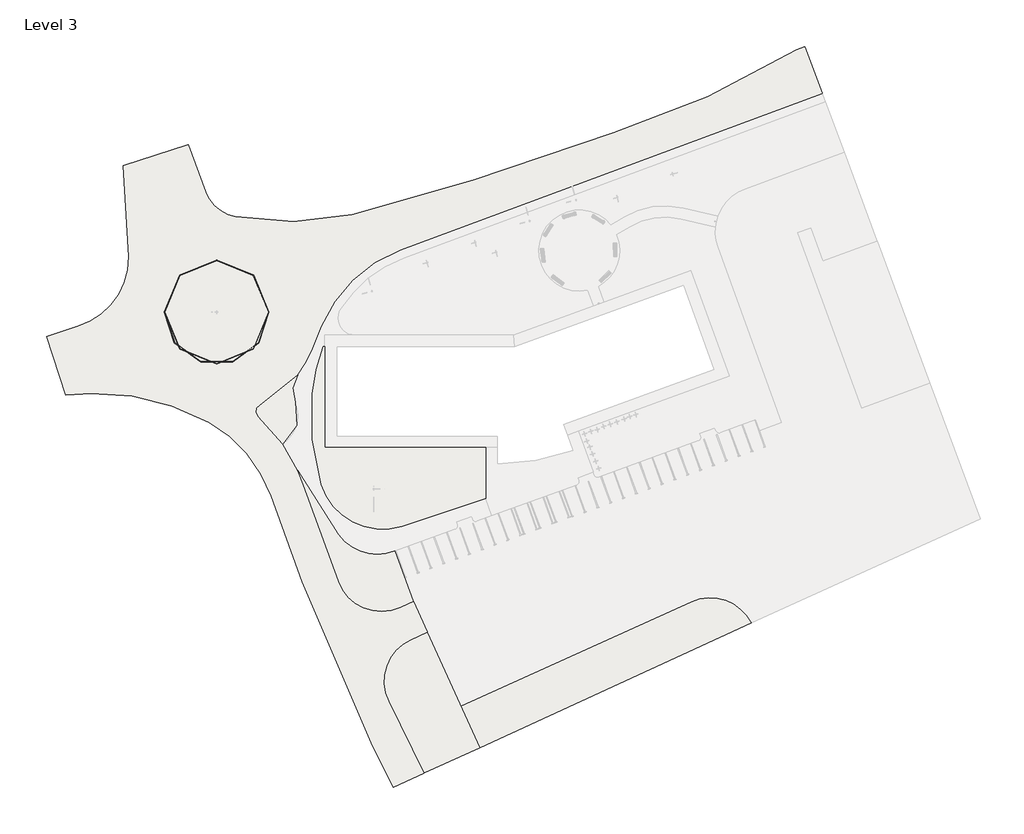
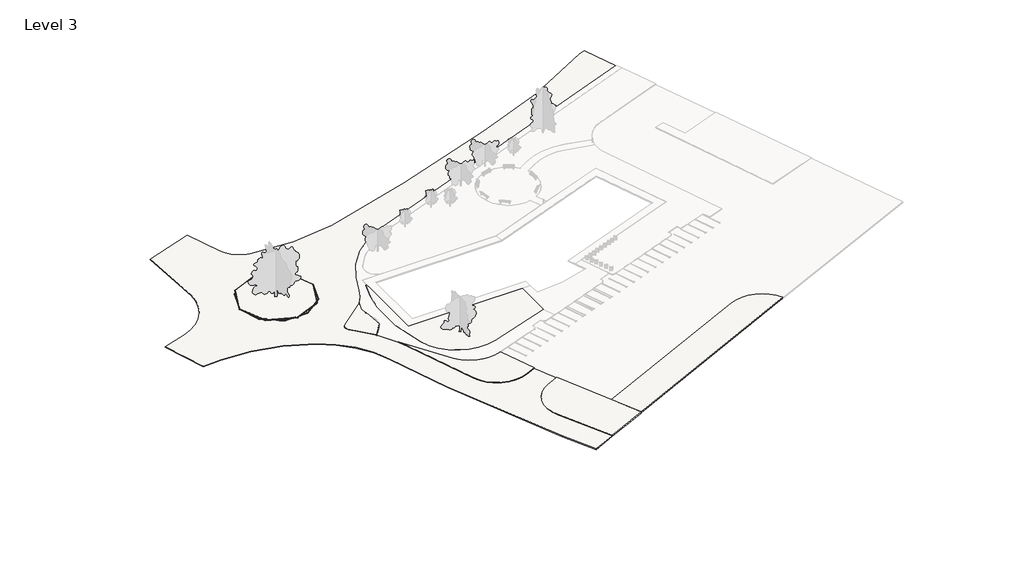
# One storey, part 1 of 3: 6 slabs, 1 proxy.
"""IFC4 building model written with IfcOpenShell, lengths in millimetres."""

from ifc_helpers import new_model, si_unit, point, frame, frame_2d, origin, place, context, project, spatial, polyline, circle_curve, ellipse_curve, trimmed, segment, composite_curve, outline, extrude, element, save
from ifc_brep_helpers import plane_surface, cylinder_surface, revolved_surface, advanced_brep

model = new_model("IFC4")

# Units and contexts
model_context = context("Model", 3, world=origin())
ifc_project = project(units=[si_unit("LENGTHUNIT", "METRE", prefix="MILLI")], contexts=[model_context])

# Site, building, storey
site = spatial("IfcSite", under=ifc_project)
building = spatial("IfcBuilding", under=site)
storey = spatial("IfcBuildingStorey", under=building, Name="Level 3", Elevation=-150.0)

# Proxy
placement = place(None, origin())
element("IfcBuildingElementProxy", 1, Name="Kerb-45deg-Splay", ObjectType="Kerb-45deg-Splay", at=placement, inside=storey, context=model_context, shape_type="AdvancedBrep", body=[
    advanced_brep(
    [(-30189.953306, 21747.745805, -225.0), (-30189.953306, 21747.745805, -375.0), (-11829.379772, 21747.745805, -375.0), (-11829.379772, 21747.745805, -225.0), (-30185.2670145, 21747.745805, -212.5052912), (-11834.0660635, 21747.745805, -212.5052912), (-30127.4480148, 21747.745805, -154.6862915), (-11891.8850632, 21747.745805, -154.6862915), (-30114.953306, 21747.745805, -150.0), (-11904.379772, 21747.745805, -150.0), (-30064.953306, 21747.745805, -150.0), (-11954.379772, 21747.745805, -150.0), (-30064.953306, 21747.745805, -375.0), (-11954.379772, 21747.745805, -375.0)],
    [
        (0, 1),
        (1, 2, circle_curve(frame((-21009.666539, 21747.745805, -375.0), z_axis=(0.0, 0.0, 1.0), x_axis=(-1.0, 0.0, 0.0)), 9180.286767)),
        (2, 3),
        (3, 0, circle_curve(frame((-21009.666539, 21747.745805, -225.0), z_axis=(0.0, 0.0, -1.0), x_axis=(-1.0, 0.0, 0.0)), 9180.286767)),
        (4, 0, circle_curve(frame((-30170.953306, 21747.745805, -225.0), z_axis=(0.0, -1.0, 0.0), x_axis=(-1.0, 0.0, 0.0)), 19.0)),
        (3, 5, circle_curve(frame((-11848.379772, 21747.745805, -225.0), z_axis=(0.0, -1.0, 0.0), x_axis=(1.0, 0.0, 0.0)), 19.0)),
        (5, 4, circle_curve(frame((-21009.666539, 21747.745805, -212.5052912), z_axis=(0.0, 0.0, -1.0), x_axis=(-1.0, 0.0, 0.0)), 9175.6004755)),
        (6, 4),
        (5, 7),
        (7, 6, circle_curve(frame((-21009.666539, 21747.745805, -154.6862915), z_axis=(0.0, 0.0, -1.0), x_axis=(-1.0, 0.0, 0.0)), 9117.7814758)),
        (8, 6, circle_curve(frame((-30114.953306, 21747.745805, -169.0), z_axis=(0.0, -1.0, 0.0), x_axis=(-1.0, 0.0, 0.0)), 19.0)),
        (7, 9, circle_curve(frame((-11904.379772, 21747.745805, -169.0), z_axis=(0.0, -1.0, 0.0), x_axis=(1.0, 0.0, 0.0)), 19.0)),
        (9, 8, circle_curve(frame((-21009.666539, 21747.745805, -150.0), z_axis=(0.0, 0.0, -1.0), x_axis=(-1.0, 0.0, 0.0)), 9105.286767)),
        (10, 8),
        (9, 11),
        (11, 10, circle_curve(frame((-21009.666539, 21747.745805, -150.0), z_axis=(0.0, 0.0, -1.0), x_axis=(-1.0, 0.0, 0.0)), 9055.286767)),
        (12, 10),
        (11, 13),
        (13, 12, circle_curve(frame((-21009.666539, 21747.745805, -375.0), z_axis=(0.0, 0.0, -1.0), x_axis=(-1.0, 0.0, 0.0)), 9055.286767)),
        (1, 12),
        (13, 2),
        (0, 3, circle_curve(frame((-21009.666539, 21747.745805, -225.0), z_axis=(0.0, 0.0, -1.0), x_axis=(1.0, 0.0, 0.0)), 9180.286767)),
        (2, 1, circle_curve(frame((-21009.666539, 21747.745805, -375.0), z_axis=(0.0, 0.0, 1.0), x_axis=(1.0, 0.0, 0.0)), 9180.286767)),
        (4, 5, circle_curve(frame((-21009.666539, 21747.745805, -212.5052912), z_axis=(0.0, 0.0, -1.0), x_axis=(1.0, 0.0, 0.0)), 9175.6004755)),
        (6, 7, circle_curve(frame((-21009.666539, 21747.745805, -154.6862915), z_axis=(0.0, 0.0, -1.0), x_axis=(1.0, 0.0, 0.0)), 9117.7814758)),
        (8, 9, circle_curve(frame((-21009.666539, 21747.745805, -150.0), z_axis=(0.0, 0.0, -1.0), x_axis=(1.0, 0.0, 0.0)), 9105.286767)),
        (10, 11, circle_curve(frame((-21009.666539, 21747.745805, -150.0), z_axis=(0.0, 0.0, -1.0), x_axis=(1.0, 0.0, 0.0)), 9055.286767)),
        (12, 13, circle_curve(frame((-21009.666539, 21747.745805, -375.0), z_axis=(0.0, 0.0, -1.0), x_axis=(1.0, 0.0, 0.0)), 9055.286767)),
    ],
    [
        cylinder_surface(frame((-21009.666539, 21747.745805, -150.0), z_axis=(0.0, 0.0, 1.0), x_axis=(-1.0, 0.0, 0.0)), 9180.286767),
        revolved_surface(trimmed(ellipse_curve(frame((-30170.953306, 21747.745805, -225.0), z_axis=(0.0, 1.0, 0.0), x_axis=(-1.0, 0.0, 0.0)), 19.0, 19.0), [point((-30189.953306, 21747.745805, -225.0))], [point((-30185.2670145, 21747.745805, -212.5052912))], True, "CARTESIAN"), (-21009.666539, 21747.745805, -150.0), (0.0, 0.0, 1.0)),
        revolved_surface(polyline([(-30185.2670145, 21747.745805, -212.5052912), (-30127.4480148, 21747.745805, -154.6862915)]), (-21009.666539, 21747.745805, -150.0), (0.0, 0.0, 1.0)),
        revolved_surface(trimmed(ellipse_curve(frame((-30114.953306, 21747.745805, -169.0), z_axis=(0.0, 1.0, 0.0), x_axis=(-1.0, 0.0, 0.0)), 19.0, 19.0), [point((-30127.4480148, 21747.745805, -154.6862915))], [point((-30114.953306, 21747.745805, -150.0))], True, "CARTESIAN"), (-21009.666539, 21747.745805, -150.0), (0.0, 0.0, 1.0)),
        plane_surface(frame((-21009.666539, 21747.745805, -150.0), z_axis=(0.0, 0.0, 1.0), x_axis=(-1.0, 0.0, 0.0))),
        revolved_surface(polyline([(-30064.953306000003, 21747.745805, -150.0), (-30064.953306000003, 21747.745805, -375.0)]), (-21009.666539, 21747.745805, -150.0), (0.0, 0.0, 1.0)),
        plane_surface(frame((-21009.666539, 21747.745805, -375.0), z_axis=(0.0, 0.0, -1.0), x_axis=(-1.0, 0.0, 0.0))),
        cylinder_surface(frame((-21009.666539, 21747.745805, -150.0), z_axis=(0.0, 0.0, 1.0), x_axis=(1.0, 0.0, 0.0)), 9180.286767),
        revolved_surface(trimmed(ellipse_curve(frame((-11848.379772, 21747.745805, -225.0), z_axis=(0.0, -1.0, 0.0), x_axis=(1.0, 0.0, 0.0)), 19.0, 19.0), [point((-11829.379772, 21747.745805, -225.0))], [point((-11834.0660635, 21747.745805, -212.5052912))], True, "CARTESIAN"), (-21009.666539, 21747.745805, -150.0), (0.0, 0.0, 1.0)),
        revolved_surface(polyline([(-11834.0660635, 21747.745805, -212.5052912), (-11891.8850632, 21747.745805, -154.6862915)]), (-21009.666539, 21747.745805, -150.0), (0.0, 0.0, 1.0)),
        revolved_surface(trimmed(ellipse_curve(frame((-11904.379772, 21747.745805, -169.0), z_axis=(0.0, -1.0, 0.0), x_axis=(1.0, 0.0, 0.0)), 19.0, 19.0), [point((-11891.8850632, 21747.745805, -154.6862915))], [point((-11904.379772, 21747.745805, -150.0))], True, "CARTESIAN"), (-21009.666539, 21747.745805, -150.0), (0.0, 0.0, 1.0)),
        plane_surface(frame((-21009.666539, 21747.745805, -150.0), z_axis=(0.0, 0.0, 1.0), x_axis=(1.0, 0.0, 0.0))),
        revolved_surface(polyline([(-11954.379772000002, 21747.745805, -150.0), (-11954.379772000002, 21747.745805, -375.0)]), (-21009.666539, 21747.745805, -150.0), (0.0, 0.0, 1.0)),
        plane_surface(frame((-21009.666539, 21747.745805, -375.0), z_axis=(0.0, 0.0, -1.0), x_axis=(1.0, 0.0, 0.0))),
    ],
    [
        (0, [[1, 2, 3, 4]]),
        (1, [[5, -4, 6, 7]]),
        (2, [[8, -7, 9, 10]]),
        (3, [[11, -10, 12, 13]]),
        (4, [[14, -13, 15, 16]]),
        (5, [[17, -16, 18, 19]]),
        (6, [[20, -19, 21, -2]]),
        (7, [[-1, 22, -3, 23]]),
        (8, [[-5, 24, -6, -22]]),
        (9, [[-8, 25, -9, -24]]),
        (10, [[-11, 26, -12, -25]]),
        (11, [[-14, 27, -15, -26]]),
        (12, [[-17, 28, -18, -27]]),
        (13, [[-20, -23, -21, -28]]),
    ],
),
])

# Slabs
element("IfcSlab", 2, ObjectType="HW - Tarmac", at=placement, inside=storey, context=model_context, shape_type="AdvancedBrep", body=[
    advanced_brep(
    [(11319.0750339, 32678.6820825, -450.0), (-2533.7024757, 19294.6457134, -450.0), (-4338.020815, 14901.1084697, -450.0), (-6782.3087816, 10684.1792377, -450.0), (-13370.6260261, 5423.9817174, -450.0), (-13677.6033933, 3456.8833973, -450.0), (-9435.7614518, -1426.1466285, -450.0), (-6798.1354124, -6055.3212881, -450.0), (-5799.3897827, -8524.9988525, -450.0), (396.8756219, -25549.0981323, -450.0), (11218.1465084, -30098.9076557, -450.0), (13513.7889112, -29057.9780616, -450.0), (15991.5863514, -34522.4560646, -450.0), (13141.7967993, -35814.6565738, -450.0), (9263.9835505, -46625.6006781, -450.0), (15449.4516331, -59227.4562362, -450.0), (10003.3009777, -61731.3795276, -450.0), (6179.6913486, -53910.7441689, -450.0), (-5959.7550469, -25627.2253077, -450.0), (-11447.5954439, -10549.507739, -450.0), (-22291.0278787, 2361.3263834, -450.0), (-43022.1126544, 7417.6536252, -450.0), (-47499.188275, 7193.1361933, -450.0), (-50887.1541564, 17493.3754096, -450.0), (-45331.0553512, 19280.9821646, -450.0), (-36432.3803321, 31485.1718586, -450.0), (-37379.0644467, 47476.0554047, -450.0), (-25967.6955075, 51229.4952825, -450.0), (-22901.7336554, 42887.2653682, -450.0), (-17701.7232788, 38523.9385795, -450.0), (2798.2323826, 38874.336945, -450.0), (24093.7234117, 44975.2730799, -450.0), (48744.4877531, 53268.1784141, -450.0), (80861.329586, 67913.9685703, -450.0), (82285.2748138, 68442.2521432, -450.0), (85362.1920702, 60148.6729587, -450.0), (11319.0750339, 32678.6820825, -300.0), (85362.1920702, 60148.6729587, -300.0), (85318.7129019, 60265.8675061, -300.0), (82285.2748138, 68442.2521432, -300.0), (80861.329586, 67913.9685703, -300.0), (48744.4877531, 53268.1784141, -300.0), (24093.7234117, 44975.2730799, -300.0), (2798.2323826, 38874.336945, -300.0), (-17701.7232788, 38523.9385795, -300.0), (-22901.7336556, 42887.2653682, -300.0), (-25967.6955075, 51229.4952825, -300.0), (-37379.0644467, 47476.0554047, -300.0), (-36432.3803321, 31485.1718586, -300.0), (-45331.0553512, 19280.9821647, -300.0), (-50887.1541564, 17493.3754096, -300.0), (-47499.188275, 7193.1361933, -300.0), (-43022.1126544, 7417.6536252, -300.0), (-22291.0278788, 2361.3263834, -300.0), (-11447.5954439, -10549.507739, -300.0), (-5959.7550469, -25627.2253077, -300.0), (6179.6913486, -53910.7441689, -300.0), (10003.3009777, -61731.3795276, -300.0), (15335.8434861, -59279.6887401, -300.0), (15449.4516331, -59227.4562362, -300.0), (9263.9835505, -46625.6006781, -300.0), (13141.7967993, -35814.6565738, -300.0), (15991.5863514, -34522.4560646, -300.0), (15939.9655714, -34408.6127729, -300.0), (13565.4096912, -29171.8213534, -300.0), (13513.7889112, -29057.9780616, -300.0), (11218.1465084, -30098.9076557, -300.0), (396.8756219, -25549.0981323, -300.0), (-5799.3897827, -8524.9988525, -300.0), (-6798.1354124, -6055.3212881, -300.0), (-9435.7614518, -1426.1466285, -300.0), (-13677.6033932, 3456.8833973, -300.0), (-13370.6260261, 5423.9817174, -300.0), (-6782.3087816, 10684.1792377, -300.0), (-4338.020815, 14901.1084698, -300.0), (-2533.7024757, 19294.6457134, -300.0)],
    [
        (0, 1, circle_curve(frame((19667.0753449, 10177.3289941, -450.0), z_axis=(0.0, 0.0, 1.0), x_axis=(1.0, 0.0, 0.0)), 24000.0)),
        (1, 2),
        (2, 3, circle_curve(frame((-21009.666539, 21747.745805, -450.0), z_axis=(0.0, 0.0, -1.0), x_axis=(1.0, 0.0, 0.0)), 18022.7693195)),
        (3, 4, circle_curve(frame((-21009.666539, 21747.745805, -450.0), z_axis=(0.0, 0.0, -1.0), x_axis=(1.0, 0.0, 0.0)), 18022.7693195)),
        (4, 5, circle_curve(frame((-12862.0000512, 4337.1056354, -450.0), z_axis=(0.0, 0.0, 1.0), x_axis=(1.0, 0.0, 0.0)), 1200.0)),
        (5, 6, circle_curve(frame((-34025.202939, -18502.8226128, -450.0), z_axis=(0.0, 0.0, -1.0), x_axis=(1.0, 0.0, 0.0)), 29937.4931369)),
        (6, 7, circle_curve(frame((-34025.202939, -18502.8226128, -450.0), z_axis=(0.0, 0.0, -1.0), x_axis=(1.0, 0.0, 0.0)), 29937.4931369)),
        (7, 8, circle_curve(frame((-34025.202939, -18502.8226128, -450.0), z_axis=(0.0, 0.0, -1.0), x_axis=(1.0, 0.0, 0.0)), 29937.4931369)),
        (8, 9),
        (9, 10, circle_curve(frame((7914.4165879, -22812.9369851, -450.0), z_axis=(0.0, 0.0, 1.0), x_axis=(1.0, 0.0, 0.0)), 8000.0)),
        (10, 11),
        (11, 12),
        (12, 13),
        (13, 14, circle_curve(frame((16445.5267197, -43100.6272444, -450.0), z_axis=(0.0, 0.0, 1.0), x_axis=(1.0, 0.0, 0.0)), 8000.0)),
        (14, 15),
        (15, 16),
        (16, 17),
        (17, 18, circle_curve(frame((250755.3453379, 67809.4299406, -450.0), z_axis=(0.0, 0.0, -1.0), x_axis=(1.0, 0.0, 0.0)), 273190.5036958)),
        (18, 19),
        (19, 20, circle_curve(frame((-34025.202939, -18502.8226128, -450.0), z_axis=(0.0, 0.0, 1.0), x_axis=(1.0, 0.0, 0.0)), 23937.4931369)),
        (20, 21, circle_curve(frame((-41682.9014766, -32118.7233845, -450.0), z_axis=(0.0, 0.0, 1.0), x_axis=(1.0, 0.0, 0.0)), 39559.0519809)),
        (21, 22, circle_curve(frame((-38351.46427, -130469.8718581, -450.0), z_axis=(0.0, 0.0, 1.0), x_axis=(1.0, 0.0, 0.0)), 137966.6069751)),
        (22, 23),
        (23, 24, circle_curve(frame((89485.9913215, -409275.0834808, -450.0), z_axis=(0.0, 0.0, -1.0), x_axis=(1.0, 0.0, 0.0)), 449261.5468467)),
        (24, 25, circle_curve(frame((-49146.430137, 31409.28528, -450.0), z_axis=(0.0, 0.0, 1.0), x_axis=(1.0, 0.0, 0.0)), 12714.2762757)),
        (25, 26, circle_curve(frame((-187156.5339156, 30585.5418824, -450.0), z_axis=(0.0, 0.0, 1.0), x_axis=(1.0, 0.0, 0.0)), 150726.8383784)),
        (26, 27),
        (27, 28),
        (28, 29, circle_curve(frame((-16495.4811586, 45241.7108788, -450.0), z_axis=(0.0, 0.0, 1.0), x_axis=(1.0, 0.0, 0.0)), 6825.2094999)),
        (29, 30, circle_curve(frame((-8339.9186843, 90661.457678, -450.0), z_axis=(0.0, 0.0, 1.0), x_axis=(1.0, 0.0, 0.0)), 52971.3534187)),
        (30, 31, circle_curve(frame((-31901.3515832, 200210.9477904, -450.0), z_axis=(0.0, 0.0, 1.0), x_axis=(1.0, 0.0, 0.0)), 165025.946828)),
        (31, 32, circle_curve(frame((227805.9643753, -519778.0945272, -450.0), z_axis=(0.0, 0.0, -1.0), x_axis=(1.0, 0.0, 0.0)), 600370.7549023)),
        (32, 33, circle_curve(frame((6518.2197062, 188403.9205118, -450.0), z_axis=(0.0, 0.0, 1.0), x_axis=(1.0, 0.0, 0.0)), 141579.4000039)),
        (33, 34),
        (34, 35),
        (35, 0),
        (36, 37),
        (37, 38),
        (38, 39),
        (39, 40),
        (40, 41, circle_curve(frame((6518.2197062, 188403.9205118, -300.0), z_axis=(0.0, 0.0, -1.0), x_axis=(1.0, 0.0, 0.0)), 141579.4000039)),
        (41, 42, circle_curve(frame((227805.9643753, -519778.0945272, -300.0), z_axis=(0.0, 0.0, 1.0), x_axis=(1.0, 0.0, 0.0)), 600370.7549023)),
        (42, 43, circle_curve(frame((-31901.3515832, 200210.9477904, -300.0), z_axis=(0.0, 0.0, -1.0), x_axis=(1.0, 0.0, 0.0)), 165025.946828)),
        (43, 44, circle_curve(frame((-8339.9186843, 90661.457678, -300.0), z_axis=(0.0, 0.0, -1.0), x_axis=(1.0, 0.0, 0.0)), 52971.3534187)),
        (44, 45, circle_curve(frame((-16495.4811586, 45241.7108788, -300.0), z_axis=(0.0, 0.0, -1.0), x_axis=(1.0, 0.0, 0.0)), 6825.2094999)),
        (45, 46),
        (46, 47),
        (47, 48, circle_curve(frame((-187156.5339156, 30585.5418824, -300.0), z_axis=(0.0, 0.0, -1.0), x_axis=(1.0, 0.0, 0.0)), 150726.8383784)),
        (48, 49, circle_curve(frame((-49146.430137, 31409.28528, -300.0), z_axis=(0.0, 0.0, -1.0), x_axis=(1.0, 0.0, 0.0)), 12714.2762757)),
        (49, 50, circle_curve(frame((89485.9913215, -409275.0834808, -300.0), z_axis=(0.0, 0.0, 1.0), x_axis=(1.0, 0.0, 0.0)), 449261.5468467)),
        (50, 51),
        (51, 52, circle_curve(frame((-38351.46427, -130469.8718581, -300.0), z_axis=(0.0, 0.0, -1.0), x_axis=(1.0, 0.0, 0.0)), 137966.6069751)),
        (52, 53, circle_curve(frame((-41682.9014766, -32118.7233845, -300.0), z_axis=(0.0, 0.0, -1.0), x_axis=(1.0, 0.0, 0.0)), 39559.0519809)),
        (53, 54, circle_curve(frame((-34025.202939, -18502.8226128, -300.0), z_axis=(0.0, 0.0, -1.0), x_axis=(1.0, 0.0, 0.0)), 23937.4931369)),
        (54, 55),
        (55, 56, circle_curve(frame((250755.3453379, 67809.4299406, -300.0), z_axis=(0.0, 0.0, 1.0), x_axis=(1.0, 0.0, 0.0)), 273190.5036958)),
        (56, 57),
        (57, 58),
        (58, 59),
        (59, 60),
        (60, 61, circle_curve(frame((16445.5267197, -43100.6272444, -300.0), z_axis=(0.0, 0.0, -1.0), x_axis=(1.0, 0.0, 0.0)), 8000.0)),
        (61, 62),
        (62, 63),
        (63, 64),
        (64, 65),
        (65, 66),
        (66, 67, circle_curve(frame((7914.4165879, -22812.9369851, -300.0), z_axis=(0.0, 0.0, -1.0), x_axis=(1.0, 0.0, 0.0)), 8000.0)),
        (67, 68),
        (68, 69, circle_curve(frame((-34025.202939, -18502.8226128, -300.0), z_axis=(0.0, 0.0, 1.0), x_axis=(1.0, 0.0, 0.0)), 29937.4931369)),
        (69, 70, circle_curve(frame((-34025.202939, -18502.8226128, -300.0), z_axis=(0.0, 0.0, 1.0), x_axis=(1.0, 0.0, 0.0)), 29937.4931369)),
        (70, 71, circle_curve(frame((-34025.202939, -18502.8226128, -300.0), z_axis=(0.0, 0.0, 1.0), x_axis=(1.0, 0.0, 0.0)), 29937.4931369)),
        (71, 72, circle_curve(frame((-12862.0000512, 4337.1056354, -300.0), z_axis=(0.0, 0.0, -1.0), x_axis=(1.0, 0.0, 0.0)), 1200.0)),
        (72, 73, circle_curve(frame((-21009.666539, 21747.745805, -300.0), z_axis=(0.0, 0.0, 1.0), x_axis=(1.0, 0.0, 0.0)), 18022.7693195)),
        (73, 74, circle_curve(frame((-21009.666539, 21747.745805, -300.0), z_axis=(0.0, 0.0, 1.0), x_axis=(1.0, 0.0, 0.0)), 18022.7693195)),
        (74, 75),
        (75, 36, circle_curve(frame((19667.0753449, 10177.3289941, -300.0), z_axis=(0.0, 0.0, -1.0), x_axis=(1.0, 0.0, 0.0)), 24000.0)),
        (0, 36),
        (75, 1),
        (74, 2),
        (73, 3),
        (72, 4),
        (71, 5),
        (70, 6),
        (69, 7),
        (68, 8),
        (67, 9),
        (66, 10),
        (65, 11),
        (62, 12),
        (61, 13),
        (60, 14),
        (59, 15),
        (57, 16),
        (56, 17),
        (55, 18),
        (54, 19),
        (53, 20),
        (52, 21),
        (51, 22),
        (50, 23),
        (49, 24),
        (48, 25),
        (47, 26),
        (46, 27),
        (45, 28),
        (44, 29),
        (43, 30),
        (42, 31),
        (41, 32),
        (40, 33),
        (39, 34),
        (37, 35),
    ],
    [
        plane_surface(frame((43667.0753449, 10177.3289941, -450.0), z_axis=(0.0, 0.0, -1.0), x_axis=(0.0, 1.0, 0.0))),
        plane_surface(frame((43667.0753449, 10177.3289941, -300.0), z_axis=(0.0, 0.0, 1.0), x_axis=(0.0, -1.0, 0.0))),
        revolved_surface(polyline([(43667.075344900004, 10177.3289941, -300.0), (43667.075344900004, 10177.3289941, -450.0)]), (19667.0753449, 10177.3289941, -300.0), (0.0, 0.0, 1.0)),
        plane_surface(frame((-2533.7024757, 19294.6457134, -450.0), z_axis=(0.9250324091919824, -0.3798881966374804, 0.0), x_axis=(0.0, 0.0, 1.0))),
        cylinder_surface(frame((-21009.666539, 21747.745805, -300.0), z_axis=(0.0, 0.0, -1.0), x_axis=(1.0, 0.0, 0.0)), 18022.7693195),
        revolved_surface(polyline([(-11662.0000512, 4337.1056354, -300.0), (-11662.0000512, 4337.1056354, -450.0)]), (-12862.0000512, 4337.1056354, -300.0), (0.0, 0.0, 1.0)),
        cylinder_surface(frame((-34025.202939, -18502.8226128, -300.0), z_axis=(0.0, 0.0, -1.0), x_axis=(1.0, 0.0, 0.0)), 29937.4931369),
        plane_surface(frame((-5799.3897827, -8524.9988525, -450.0), z_axis=(0.9396926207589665, 0.34202014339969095, 0.0), x_axis=(0.0, 0.0, 1.0))),
        revolved_surface(polyline([(15914.4165879, -22812.9369851, -300.0), (15914.4165879, -22812.9369851, -450.0)]), (7914.4165879, -22812.9369851, -300.0), (0.0, 0.0, 1.0)),
        plane_surface(frame((11218.1465084, -30098.9076557, -450.0), z_axis=(-0.41296624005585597, 0.9107463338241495, 0.0), x_axis=(0.0, 0.0, 1.0))),
        plane_surface(frame((13513.7889112, -29057.9780616, -450.0), z_axis=(0.9107463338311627, 0.41296624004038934, 0.0), x_axis=(0.0, 0.0, 1.0))),
        plane_surface(frame((15991.5863514, -34522.4560646, -450.0), z_axis=(0.41296624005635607, -0.9107463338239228, 0.0), x_axis=(0.0, 0.0, 1.0))),
        revolved_surface(polyline([(24445.5267197, -43100.6272444, -300.0), (24445.5267197, -43100.6272444, -450.0)]), (16445.5267197, -43100.6272444, -300.0), (0.0, 0.0, 1.0)),
        plane_surface(frame((9263.9835505, -46625.6006781, -450.0), z_axis=(0.8976928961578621, 0.44062167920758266, 0.0), x_axis=(0.0, 0.0, 1.0))),
        plane_surface(frame((15449.4516331, -59227.4562362, -450.0), z_axis=(0.4177257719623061, -0.9085731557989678, 0.0), x_axis=(0.0, 0.0, 1.0))),
        plane_surface(frame((10003.3009777, -61731.3795276, -450.0), z_axis=(-0.8983758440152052, -0.43922755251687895, 0.0), x_axis=(0.0, 0.0, 1.0))),
        cylinder_surface(frame((250755.3453379, 67809.4299406, -300.0), z_axis=(0.0, 0.0, -1.0), x_axis=(1.0, 0.0, 0.0)), 273190.5036958),
        plane_surface(frame((-5959.7550469, -25627.2253077, -450.0), z_axis=(-0.9396926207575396, -0.3420201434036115, 0.0), x_axis=(0.0, 0.0, 1.0))),
        revolved_surface(polyline([(-10087.709802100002, -18502.8226128, -300.0), (-10087.709802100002, -18502.8226128, -450.0)]), (-34025.202939, -18502.8226128, -300.0), (0.0, 0.0, 1.0)),
        revolved_surface(polyline([(-2123.849495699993, -32118.7233845, -300.0), (-2123.849495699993, -32118.7233845, -450.0)]), (-41682.9014766, -32118.7233845, -300.0), (0.0, 0.0, 1.0)),
        revolved_surface(polyline([(99615.1427051, -130469.8718581, -300.0), (99615.1427051, -130469.8718581, -450.0)]), (-38351.46427, -130469.8718581, -300.0), (0.0, 0.0, 1.0)),
        plane_surface(frame((-47499.188275, 7193.1361933, -450.0), z_axis=(-0.9499332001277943, -0.31245306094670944, 0.0), x_axis=(0.0, 0.0, 1.0))),
        cylinder_surface(frame((89485.9913215, -409275.0834808, -300.0), z_axis=(0.0, 0.0, -1.0), x_axis=(1.0, 0.0, 0.0)), 449261.5468467),
        revolved_surface(polyline([(-36432.1538613, 31409.28528, -300.0), (-36432.1538613, 31409.28528, -450.0)]), (-49146.430137, 31409.28528, -300.0), (0.0, 0.0, 1.0)),
        revolved_surface(polyline([(-36429.69553720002, 30585.5418824, -300.0), (-36429.69553720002, 30585.5418824, -450.0)]), (-187156.5339156, 30585.5418824, -300.0), (0.0, 0.0, 1.0)),
        plane_surface(frame((-37379.0644467, 47476.0554047, -450.0), z_axis=(-0.3124530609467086, 0.9499332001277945, 0.0), x_axis=(0.0, 0.0, 1.0))),
        plane_surface(frame((-25967.6955075, 51229.4952825, -450.0), z_axis=(0.9386162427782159, 0.34496311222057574, 0.0), x_axis=(0.0, 0.0, 1.0))),
        revolved_surface(polyline([(-9670.2716587, 45241.7108788, -300.0), (-9670.2716587, 45241.7108788, -450.0)]), (-16495.4811586, 45241.7108788, -300.0), (0.0, 0.0, 1.0)),
        revolved_surface(polyline([(44631.4347344, 90661.457678, -300.0), (44631.4347344, 90661.457678, -450.0)]), (-8339.9186843, 90661.457678, -300.0), (0.0, 0.0, 1.0)),
        revolved_surface(polyline([(133124.59524479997, 200210.9477904, -300.0), (133124.59524479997, 200210.9477904, -450.0)]), (-31901.3515832, 200210.9477904, -300.0), (0.0, 0.0, 1.0)),
        cylinder_surface(frame((227805.9643753, -519778.0945272, -300.0), z_axis=(0.0, 0.0, -1.0), x_axis=(1.0, 0.0, 0.0)), 600370.7549023),
        revolved_surface(polyline([(148097.6197101, 188403.9205118, -300.0), (148097.6197101, 188403.9205118, -450.0)]), (6518.2197062, 188403.9205118, -300.0), (0.0, 0.0, 1.0)),
        plane_surface(frame((80861.329586, 67913.9685703, -450.0), z_axis=(-0.34783334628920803, 0.9375563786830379, 0.0), x_axis=(0.0, 0.0, 1.0))),
        plane_surface(frame((82285.2748138, 68442.2521432, -450.0), z_axis=(0.9375563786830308, 0.3478333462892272, 0.0), x_axis=(0.0, 0.0, 1.0))),
        plane_surface(frame((85362.1920702, 60148.6729587, -450.0), z_axis=(0.3478333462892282, -0.9375563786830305, 0.0), x_axis=(0.0, 0.0, 1.0))),
    ],
    [
        (0, [[1, 2, 3, 4, 5, 6, 7, 8, 9, 10, 11, 12, 13, 14, 15, 16, 17, 18, 19, 20, 21, 22, 23, 24, 25, 26, 27, 28, 29, 30, 31, 32, 33, 34, 35, 36]]),
        (1, [[37, 38, 39, 40, 41, 42, 43, 44, 45, 46, 47, 48, 49, 50, 51, 52, 53, 54, 55, 56, 57, 58, 59, 60, 61, 62, 63, 64, 65, 66, 67, 68, 69, 70, 71, 72, 73, 74, 75, 76]]),
        (2, [[-1, 77, -76, 78]]),
        (3, [[-2, -78, -75, 79]]),
        (4, [[-3, -79, -74, 80]]),
        (4, [[-4, -80, -73, 81]]),
        (5, [[-5, -81, -72, 82]]),
        (6, [[-6, -82, -71, 83]]),
        (6, [[-7, -83, -70, 84]]),
        (6, [[-8, -84, -69, 85]]),
        (7, [[-9, -85, -68, 86]]),
        (8, [[-10, -86, -67, 87]]),
        (9, [[-11, -87, -66, 88]]),
        (10, [[-12, -88, -65, -64, -63, 89]]),
        (11, [[-13, -89, -62, 90]]),
        (12, [[-14, -90, -61, 91]]),
        (13, [[-15, -91, -60, 92]]),
        (14, [[-16, -92, -59, -58, 93]]),
        (15, [[-17, -93, -57, 94]]),
        (16, [[-18, -94, -56, 95]]),
        (17, [[-19, -95, -55, 96]]),
        (18, [[-20, -96, -54, 97]]),
        (19, [[-21, -97, -53, 98]]),
        (20, [[-22, -98, -52, 99]]),
        (21, [[-23, -99, -51, 100]]),
        (22, [[-24, -100, -50, 101]]),
        (23, [[-25, -101, -49, 102]]),
        (24, [[-26, -102, -48, 103]]),
        (25, [[-27, -103, -47, 104]]),
        (26, [[-28, -104, -46, 105]]),
        (27, [[-29, -105, -45, 106]]),
        (28, [[-30, -106, -44, 107]]),
        (29, [[-31, -107, -43, 108]]),
        (30, [[-32, -108, -42, 109]]),
        (31, [[-33, -109, -41, 110]]),
        (32, [[-34, -110, -40, 111]]),
        (33, [[-35, -111, -39, -38, 112]]),
        (34, [[-36, -112, -37, -77]]),
    ],
),
])
element("IfcSlab", 3, ObjectType="HW - Block Paving Staggered Bond", at=placement, inside=storey, context=model_context, shape_type="SweptSolid", body=[
    extrude(outline(composite_curve([segment(trimmed(circle_curve(frame_2d((65717.0598423, -36447.4594953)), 8000.0), [point((62413.3299219, -29161.4888246))], [point((72854.8615141, -32834.7337523))], False, "CARTESIAN"), True, "CONTINUOUS"), segment(polyline([(72854.8615141, -32834.7337523), (25167.7542164, -54759.3675382), (21892.102352, -47535.3195724), (62413.3299219, -29161.4888246)]), True, "CONTINUOUS")], self_intersect=False)), frame((0.0, 0.0, -400.0), z_axis=(0.0, 0.0, 1.0), x_axis=(1.0, 0.0, 0.0)), (0.0, 0.0, 1.0), 250.0),
])
element("IfcSlab", 4, ObjectType="SW - Grass", at=placement, inside=storey, context=model_context, shape_type="AdvancedBrep", body=[
    advanced_brep(
    [(-2642.8025055, -8500.2270946, -450.0), (-4195.856914, 7441.3832849, -450.0), (-2330.8401022, 15726.3999977, -450.0), (-1999.9999988, 15726.3999977, -450.0), (-1999.9999998, -1999.9999998, -450.0), (26251.8766591, -1999.9999998, -450.0), (26235.8132695, -10959.5697673, -450.0), (11459.4893753, -15883.0044948, -450.0), (-2642.8025055, -8500.2270946, -150.0), (11459.4893753, -15883.0044948, -150.0), (26235.8132695, -10959.5697673, -150.0), (26251.8766591, -1999.9999998, -150.0), (-1999.9999998, -1999.9999998, -150.0), (-1999.9999988, 15726.3999977, -150.0), (-2330.8401022, 15726.3999977, -150.0), (-4195.856914, 7441.3832849, -150.0)],
    [
        (0, 1, circle_curve(frame((34681.860266, 3182.4503372, -450.0), z_axis=(0.0, 0.0, -1.0), x_axis=(1.0, 0.0, 0.0)), 39110.2979148)),
        (1, 2, circle_curve(frame((33467.7934212, 3315.4475825, -450.0), z_axis=(0.0, 0.0, -1.0), x_axis=(1.0, 0.0, 0.0)), 37888.9680777)),
        (2, 3),
        (3, 4),
        (4, 5),
        (5, 6),
        (6, 7),
        (7, 0, circle_curve(frame((8101.4056004, -5137.2732662, -450.0), z_axis=(0.0, 0.0, -1.0), x_axis=(1.0, 0.0, 0.0)), 11258.217722)),
        (8, 9, circle_curve(frame((8101.4056004, -5137.2732662, -150.0), z_axis=(0.0, 0.0, 1.0), x_axis=(1.0, 0.0, 0.0)), 11258.217722)),
        (9, 10),
        (10, 11),
        (11, 12),
        (12, 13),
        (13, 14),
        (14, 15, circle_curve(frame((33467.7934212, 3315.4475825, -150.0), z_axis=(0.0, 0.0, 1.0), x_axis=(1.0, 0.0, 0.0)), 37888.9680777)),
        (15, 8, circle_curve(frame((34681.860266, 3182.4503372, -150.0), z_axis=(0.0, 0.0, 1.0), x_axis=(1.0, 0.0, 0.0)), 39110.2979148)),
        (0, 8),
        (15, 1),
        (14, 2),
        (13, 3),
        (12, 4),
        (11, 5),
        (10, 6),
        (9, 7),
    ],
    [
        plane_surface(frame((73792.1581807, 3182.4503372, -450.0), z_axis=(0.0, 0.0, -1.0), x_axis=(0.0, -1.0, 0.0))),
        plane_surface(frame((73792.1581807, 3182.4503372, -150.0), z_axis=(0.0, 0.0, 1.0), x_axis=(0.0, 1.0, 0.0))),
        cylinder_surface(frame((34681.860266, 3182.4503372, -150.0), z_axis=(0.0, 0.0, -1.0), x_axis=(1.0, 0.0, 0.0)), 39110.2979148),
        cylinder_surface(frame((33467.7934212, 3315.4475825, -150.0), z_axis=(0.0, 0.0, -1.0), x_axis=(1.0, 0.0, 0.0)), 37888.9680777),
        plane_surface(frame((-2330.8401022, 15726.3999977, -450.0), z_axis=(-1.1144847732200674e-10, 1.0, 0.0), x_axis=(0.0, 0.0, 1.0))),
        plane_surface(frame((-1999.9999988, 15726.3999977, -450.0), z_axis=(1.0, -5.6589007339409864e-11, 0.0), x_axis=(0.0, 0.0, 1.0))),
        plane_surface(frame((-1999.9999998, -1999.9999998, -450.0), z_axis=(0.0, 1.0, 0.0), x_axis=(0.0, 0.0, 1.0))),
        plane_surface(frame((26251.8766591, -1999.9999998, -450.0), z_axis=(0.9999983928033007, -0.00179287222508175, 0.0), x_axis=(0.0, 0.0, 1.0))),
        plane_surface(frame((26235.8132695, -10959.5697673, -450.0), z_axis=(0.31611181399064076, -0.9487219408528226, 0.0), x_axis=(0.0, 0.0, 1.0))),
        cylinder_surface(frame((8101.4056004, -5137.2732662, -150.0), z_axis=(0.0, 0.0, -1.0), x_axis=(1.0, 0.0, 0.0)), 11258.217722),
    ],
    [
        (0, [[1, 2, 3, 4, 5, 6, 7, 8]]),
        (1, [[9, 10, 11, 12, 13, 14, 15, 16]]),
        (2, [[-1, 17, -16, 18]]),
        (3, [[-2, -18, -15, 19]]),
        (4, [[-3, -19, -14, 20]]),
        (5, [[-4, -20, -13, 21]]),
        (6, [[-5, -21, -12, 22]]),
        (7, [[-6, -22, -11, 23]]),
        (8, [[-7, -23, -10, 24]]),
        (9, [[-8, -24, -9, -17]]),
    ],
),
])
element("IfcSlab", 5, ObjectType="SW - Grass", at=placement, inside=storey, context=model_context, shape_type="SweptSolid", body=[
    extrude(outline(composite_curve([segment(trimmed(circle_curve(frame_2d((-12862.0000512, 4337.1056354)), 1200.0), [point((-13677.6033933, 3456.8833973))], [point((-13370.6260261, 5423.9817174))], False, "CARTESIAN"), True, "CONTINUOUS"), segment(trimmed(circle_curve(frame_2d((-21009.666539, 21747.745805)), 18022.7693195), [point((-13370.6260261, 5423.9817174))], [point((-6782.3087816, 10684.1792377))], True, "CARTESIAN"), True, "CONTINUOUS"), segment(trimmed(circle_curve(frame_2d((-2883.1840488, 7944.2260418)), 4765.5552875), [point((-6782.3087816, 10684.1792377))], [point((-7225.4587436, 5980.7679513))], True, "CARTESIAN"), True, "CONTINUOUS"), segment(trimmed(circle_curve(frame_2d((-12598.9404573, 3551.0261947)), 5897.2833349), [point((-7225.4587436, 5980.7679513))], [point((-9435.7614518, -1426.1466285))], False, "CARTESIAN"), True, "CONTINUOUS"), segment(trimmed(circle_curve(frame_2d((-34025.202939, -18502.8226128)), 29937.4931369), [point((-9435.7614518, -1426.1466285))], [point((-13677.6033933, 3456.8833973))], True, "CARTESIAN"), True, "CONTINUOUS")], self_intersect=False)), frame((0.0, 0.0, -450.0), z_axis=(0.0, 0.0, 1.0), x_axis=(1.0, 0.0, 0.0)), (0.0, 0.0, 1.0), 300.0),
])
element("IfcSlab", 6, ObjectType="SW - Grass", at=placement, inside=storey, context=model_context, shape_type="SweptSolid", body=[
    extrude(outline(composite_curve([segment(trimmed(circle_curve(frame_2d((7914.4165879, -22812.9369851)), 8000.0), [point((11218.1465084, -30098.9076557))], [point((396.8756218, -25549.0981323))], False, "CARTESIAN"), True, "CONTINUOUS"), segment(polyline([(396.8756218, -25549.0981323), (-5799.3897827, -8524.9988525)]), True, "CONTINUOUS"), segment(trimmed(circle_curve(frame_2d((-34025.202939, -18502.8226128)), 29937.4931369), [point((-5799.3897827, -8524.9988525))], [point((-6798.1354124, -6055.3212881))], True, "CARTESIAN"), True, "CONTINUOUS"), segment(trimmed(circle_curve(frame_2d((70084.3302911, 34844.0146056)), 87084.264992), [point((-6798.1354124, -6055.3212881))], [point((361.689646, -17332.8249947))], True, "CARTESIAN"), True, "CONTINUOUS"), segment(trimmed(circle_curve(frame_2d((7234.2316265, -12189.7679154)), 8583.872634), [point((361.689646, -17332.8249947))], [point((10293.394387, -20210.0168268))], True, "CARTESIAN"), True, "CONTINUOUS"), segment(polyline([(10293.394387, -20210.0168268), (13513.7889112, -29057.9780616), (11218.1465084, -30098.9076557)]), True, "CONTINUOUS")], self_intersect=False)), frame((0.0, 0.0, -450.0), z_axis=(0.0, 0.0, 1.0), x_axis=(1.0, 0.0, 0.0)), (0.0, 0.0, 1.0), 300.0),
    extrude(outline(composite_curve([segment(polyline([(15991.5863515, -34522.4560646), (25167.7542164, -54759.3675382), (15449.4516331, -59227.4562362), (9263.9835504, -46625.6006782)]), True, "CONTINUOUS"), segment(trimmed(circle_curve(frame_2d((16445.5267197, -43100.6272444)), 8000.0), [point((9263.9835504, -46625.6006782))], [point((13141.7967993, -35814.6565738))], False, "CARTESIAN"), True, "CONTINUOUS"), segment(polyline([(13141.7967993, -35814.6565738), (15991.5863515, -34522.4560646)]), True, "CONTINUOUS")], self_intersect=False)), frame((0.0, 0.0, -450.0), z_axis=(0.0, 0.0, 1.0), x_axis=(1.0, 0.0, 0.0)), (0.0, 0.0, 1.0), 300.0),
])
element("IfcSlab", 7, ObjectType="SW - Grass", at=placement, inside=storey, context=model_context, shape_type="SweptSolid", body=[
    extrude(outline(composite_curve([segment(trimmed(circle_curve(frame_2d((-21009.666539, 21747.745805)), 9055.286767), [point((-30064.953306, 21747.745805))], [point((-11954.379772, 21747.745805))], False, "CARTESIAN"), True, "CONTINUOUS"), segment(trimmed(circle_curve(frame_2d((-21009.666539, 21747.745805)), 9055.286767), [point((-11954.379772, 21747.745805))], [point((-30064.953306, 21747.745805))], False, "CARTESIAN"), True, "CONTINUOUS")], self_intersect=False)), frame((0.0, 0.0, -450.0), z_axis=(0.0, 0.0, 1.0), x_axis=(1.0, 0.0, 0.0)), (0.0, 0.0, 1.0), 300.0),
])

save(model, "model.ifc")
